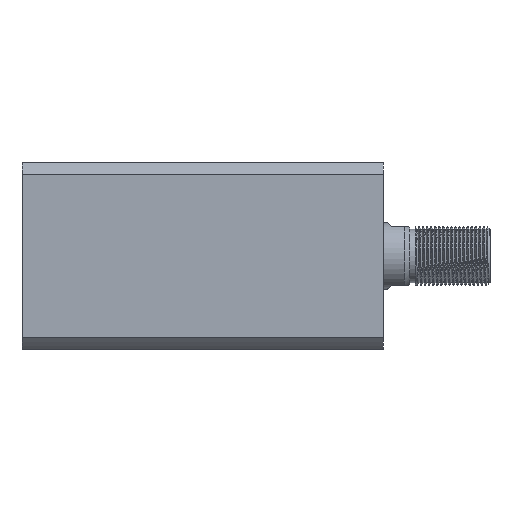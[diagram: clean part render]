
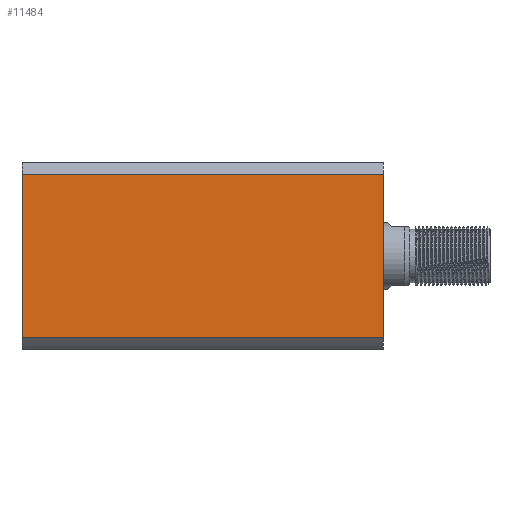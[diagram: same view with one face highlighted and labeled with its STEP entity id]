
A CAD part, left-side view. The second image highlights one B-rep face of the part: STEP entity #11484.
In plain terms, the highlighted planar face has unit normal (-1, 0, 0) as drawn and (0, 1, 0) by its records, which use the part's own axes.
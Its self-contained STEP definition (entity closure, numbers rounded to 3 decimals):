
#68 = ORIENTED_EDGE ( 'NONE', *, *, #2029, .F. ) ;
#143 = AXIS2_PLACEMENT_3D ( 'NONE', #13410, #6109, #13451 ) ;
#209 = VECTOR ( 'NONE', #8256, 1000. ) ;
#312 = LINE ( 'NONE', #4746, #11111 ) ;
#405 = CARTESIAN_POINT ( 'NONE',  ( 30.615, 35., 300. ) ) ;
#935 = CARTESIAN_POINT ( 'NONE',  ( 30.615, 35., 0. ) ) ;
#1634 = DIRECTION ( 'NONE',  ( 0., 0., -1. ) ) ;
#1968 = CARTESIAN_POINT ( 'NONE',  ( -35., 35., 0. ) ) ;
#2029 = EDGE_CURVE ( 'NONE', #7601, #13147, #10709, .T. ) ;
#2056 = ORIENTED_EDGE ( 'NONE', *, *, #7492, .T. ) ;
#2154 = EDGE_CURVE ( 'NONE', #11986, #7601, #6946, .T. ) ;
#2559 = ORIENTED_EDGE ( 'NONE', *, *, #11653, .F. ) ;
#2719 = CARTESIAN_POINT ( 'NONE',  ( -30.615, 35., 135. ) ) ;
#2761 = ORIENTED_EDGE ( 'NONE', *, *, #2154, .F. ) ;
#3453 = CARTESIAN_POINT ( 'NONE',  ( -35., 35., 135. ) ) ;
#3977 = PLANE ( 'NONE',  #143 ) ;
#4500 = DIRECTION ( 'NONE',  ( -1., 0., 0. ) ) ;
#4746 = CARTESIAN_POINT ( 'NONE',  ( -30.615, 35., 300. ) ) ;
#5148 = VECTOR ( 'NONE', #4500, 1000. ) ;
#5322 = CARTESIAN_POINT ( 'NONE',  ( -30.615, 35., 0. ) ) ;
#6109 = DIRECTION ( 'NONE',  ( 0., -1., 0. ) ) ;
#6946 = LINE ( 'NONE', #405, #12514 ) ;
#7492 = EDGE_CURVE ( 'NONE', #11986, #11000, #8557, .T. ) ;
#7601 = VERTEX_POINT ( 'NONE', #10440 ) ;
#7736 = DIRECTION ( 'NONE',  ( 0., 0., 1. ) ) ;
#8256 = DIRECTION ( 'NONE',  ( -1., 0., 0. ) ) ;
#8557 = LINE ( 'NONE', #1968, #209 ) ;
#10197 = EDGE_LOOP ( 'NONE', ( #2559, #68, #2761, #2056 ) ) ;
#10440 = CARTESIAN_POINT ( 'NONE',  ( 30.615, 35., 135. ) ) ;
#10709 = LINE ( 'NONE', #3453, #5148 ) ;
#11000 = VERTEX_POINT ( 'NONE', #5322 ) ;
#11111 = VECTOR ( 'NONE', #1634, 1000. ) ;
#11484 = ADVANCED_FACE ( 'NONE', ( #12098 ), #3977, .F. ) ;
#11653 = EDGE_CURVE ( 'NONE', #13147, #11000, #312, .T. ) ;
#11986 = VERTEX_POINT ( 'NONE', #935 ) ;
#12098 = FACE_OUTER_BOUND ( 'NONE', #10197, .T. ) ;
#12514 = VECTOR ( 'NONE', #7736, 1000. ) ;
#13147 = VERTEX_POINT ( 'NONE', #2719 ) ;
#13410 = CARTESIAN_POINT ( 'NONE',  ( -35., 35., 135. ) ) ;
#13451 = DIRECTION ( 'NONE',  ( 0., 0., -1. ) ) ;
